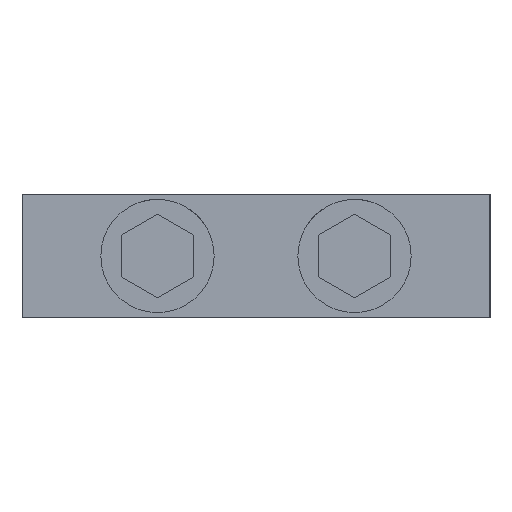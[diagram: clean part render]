
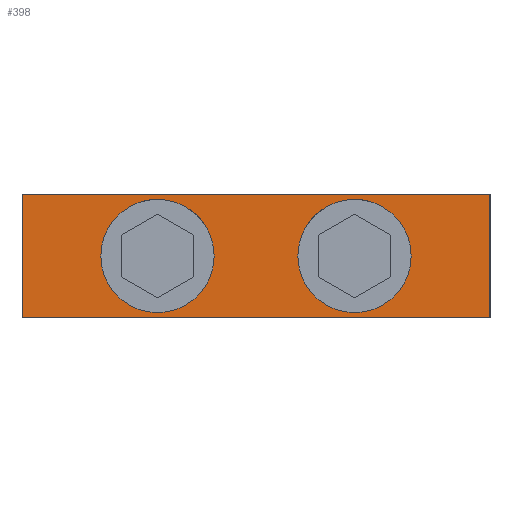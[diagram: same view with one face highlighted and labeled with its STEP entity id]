
A CAD part, left-side view. The second image highlights one B-rep face of the part: STEP entity #398.
In plain terms, the highlighted planar face has unit normal (-1, 0, 0).
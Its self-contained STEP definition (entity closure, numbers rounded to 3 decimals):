
#321 = VERTEX_POINT ( 'NONE', #1198 ) ;
#345 = VERTEX_POINT ( 'NONE', #1284 ) ;
#346 = EDGE_CURVE ( 'NONE', #345, #321, #1283, .T. ) ;
#356 = VERTEX_POINT ( 'NONE', #1325 ) ;
#379 = EDGE_CURVE ( 'NONE', #356, #380, #1349, .T. ) ;
#380 = VERTEX_POINT ( 'NONE', #1340 ) ;
#397 = EDGE_CURVE ( 'NONE', #380, #356, #1376, .T. ) ;
#398 = ADVANCED_FACE ( 'NONE', ( #1371, #1370, #1369 ), #1368, .F. ) ;
#399 = EDGE_LOOP ( 'NONE', ( #409, #412, #429, #415 ) ) ;
#400 = EDGE_CURVE ( 'NONE', #410, #411, #1362, .T. ) ;
#402 = EDGE_LOOP ( 'NONE', ( #403, #404 ) ) ;
#403 = ORIENTED_EDGE ( 'NONE', *, *, #397, .F. ) ;
#404 = ORIENTED_EDGE ( 'NONE', *, *, #379, .F. ) ;
#409 = ORIENTED_EDGE ( 'NONE', *, *, #400, .T. ) ;
#410 = VERTEX_POINT ( 'NONE', #1412 ) ;
#411 = VERTEX_POINT ( 'NONE', #1411 ) ;
#412 = ORIENTED_EDGE ( 'NONE', *, *, #413, .F. ) ;
#413 = EDGE_CURVE ( 'NONE', #428, #411, #1410, .T. ) ;
#415 = ORIENTED_EDGE ( 'NONE', *, *, #416, .T. ) ;
#416 = EDGE_CURVE ( 'NONE', #422, #410, #1406, .T. ) ;
#417 = EDGE_LOOP ( 'NONE', ( #418, #419 ) ) ;
#418 = ORIENTED_EDGE ( 'NONE', *, *, #346, .T. ) ;
#419 = ORIENTED_EDGE ( 'NONE', *, *, #420, .T. ) ;
#420 = EDGE_CURVE ( 'NONE', #321, #345, #1402, .T. ) ;
#421 = EDGE_CURVE ( 'NONE', #422, #428, #1397, .T. ) ;
#422 = VERTEX_POINT ( 'NONE', #1393 ) ;
#428 = VERTEX_POINT ( 'NONE', #1451 ) ;
#429 = ORIENTED_EDGE ( 'NONE', *, *, #421, .F. ) ;
#1198 = CARTESIAN_POINT ( 'NONE',  ( 0., 0., -1.7 ) ) ;
#1279 = DIRECTION ( 'NONE',  ( 0., 0., -1. ) ) ;
#1280 = DIRECTION ( 'NONE',  ( 1., 0., 0. ) ) ;
#1281 = CARTESIAN_POINT ( 'NONE',  ( 0., 0., -4. ) ) ;
#1282 = AXIS2_PLACEMENT_3D ( 'NONE', #1281, #1280, #1279 ) ;
#1283 = CIRCLE ( 'NONE', #1282, 2.3 ) ;
#1284 = CARTESIAN_POINT ( 'NONE',  ( 0., 0., -6.3 ) ) ;
#1325 = CARTESIAN_POINT ( 'NONE',  ( 0., 0., 6.3 ) ) ;
#1340 = CARTESIAN_POINT ( 'NONE',  ( 0., 0., 1.7 ) ) ;
#1341 = DIRECTION ( 'NONE',  ( 0., 0., -1. ) ) ;
#1342 = DIRECTION ( 'NONE',  ( -1., 0., 0. ) ) ;
#1343 = CARTESIAN_POINT ( 'NONE',  ( 0., 0., 4. ) ) ;
#1344 = AXIS2_PLACEMENT_3D ( 'NONE', #1343, #1342, #1341 ) ;
#1349 = CIRCLE ( 'NONE', #1344, 2.3 ) ;
#1359 = DIRECTION ( 'NONE',  ( 0., 0., 1. ) ) ;
#1360 = VECTOR ( 'NONE', #1359, 1000. ) ;
#1361 = CARTESIAN_POINT ( 'NONE',  ( 0., -2.5, -9.5 ) ) ;
#1362 = LINE ( 'NONE', #1361, #1360 ) ;
#1364 = DIRECTION ( 'NONE',  ( 0., 0., -1. ) ) ;
#1365 = DIRECTION ( 'NONE',  ( 1., 0., 0. ) ) ;
#1366 = CARTESIAN_POINT ( 'NONE',  ( 0., 2.5, -9.5 ) ) ;
#1367 = AXIS2_PLACEMENT_3D ( 'NONE', #1366, #1365, #1364 ) ;
#1368 = PLANE ( 'NONE',  #1367 ) ;
#1369 = FACE_BOUND ( 'NONE', #402, .T. ) ;
#1370 = FACE_BOUND ( 'NONE', #417, .T. ) ;
#1371 = FACE_OUTER_BOUND ( 'NONE', #399, .T. ) ;
#1372 = DIRECTION ( 'NONE',  ( 0., 0., -1. ) ) ;
#1373 = DIRECTION ( 'NONE',  ( -1., 0., 0. ) ) ;
#1374 = CARTESIAN_POINT ( 'NONE',  ( 0., 0., 4. ) ) ;
#1375 = AXIS2_PLACEMENT_3D ( 'NONE', #1374, #1373, #1372 ) ;
#1376 = CIRCLE ( 'NONE', #1375, 2.3 ) ;
#1393 = CARTESIAN_POINT ( 'NONE',  ( 0., 2.5, -9.5 ) ) ;
#1394 = DIRECTION ( 'NONE',  ( 0., 0., 1. ) ) ;
#1395 = VECTOR ( 'NONE', #1394, 1000. ) ;
#1396 = CARTESIAN_POINT ( 'NONE',  ( 0., 2.5, -9.5 ) ) ;
#1397 = LINE ( 'NONE', #1396, #1395 ) ;
#1398 = DIRECTION ( 'NONE',  ( 0., 0., -1. ) ) ;
#1399 = DIRECTION ( 'NONE',  ( 1., 0., 0. ) ) ;
#1400 = CARTESIAN_POINT ( 'NONE',  ( 0., 0., -4. ) ) ;
#1401 = AXIS2_PLACEMENT_3D ( 'NONE', #1400, #1399, #1398 ) ;
#1402 = CIRCLE ( 'NONE', #1401, 2.3 ) ;
#1403 = DIRECTION ( 'NONE',  ( 0., -1., 0. ) ) ;
#1404 = VECTOR ( 'NONE', #1403, 1000. ) ;
#1405 = CARTESIAN_POINT ( 'NONE',  ( 0., 2.5, -9.5 ) ) ;
#1406 = LINE ( 'NONE', #1405, #1404 ) ;
#1407 = DIRECTION ( 'NONE',  ( 0., -1., 0. ) ) ;
#1408 = VECTOR ( 'NONE', #1407, 1000. ) ;
#1409 = CARTESIAN_POINT ( 'NONE',  ( 0., 2.5, 9.5 ) ) ;
#1410 = LINE ( 'NONE', #1409, #1408 ) ;
#1411 = CARTESIAN_POINT ( 'NONE',  ( 0., -2.5, 9.5 ) ) ;
#1412 = CARTESIAN_POINT ( 'NONE',  ( 0., -2.5, -9.5 ) ) ;
#1451 = CARTESIAN_POINT ( 'NONE',  ( 0., 2.5, 9.5 ) ) ;
